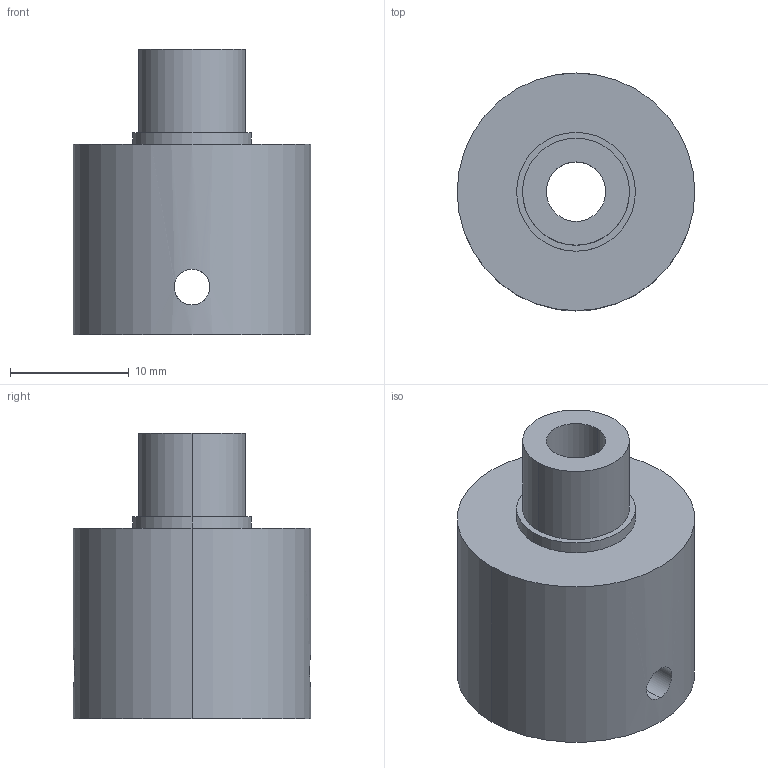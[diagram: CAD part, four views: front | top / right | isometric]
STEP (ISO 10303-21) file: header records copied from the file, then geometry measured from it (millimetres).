
FILE_DESCRIPTION (( 'STEP AP214' ), '1' );
FILE_NAME ('C.STEP', '2023-05-04T07:55:10', ( 'ay' ), ( '' ), 'SwSTEP 2.0', 'SolidWorks 2020', '' );
FILE_SCHEMA (( 'AUTOMOTIVE_DESIGN' ));
Length unit declared in the file: millimetre
Products named in the file (1): C
Bounding box: 20 x 20 x 24 mm (x, y, z)
Volume: 4959.1 mm3; surface area: 2320.8 mm2
Topology: 1 solids, 1 shells, 19 faces, 42 edges, 28 vertices
Faces by surface type: cylinder 14, plane 5
Entity records: 766 total; most frequent: CARTESIAN_POINT 290, DIRECTION 94, ORIENTED_EDGE 84, EDGE_CURVE 42, AXIS2_PLACEMENT_3D 40, EDGE_LOOP 28, VERTEX_POINT 28, CIRCLE 20
